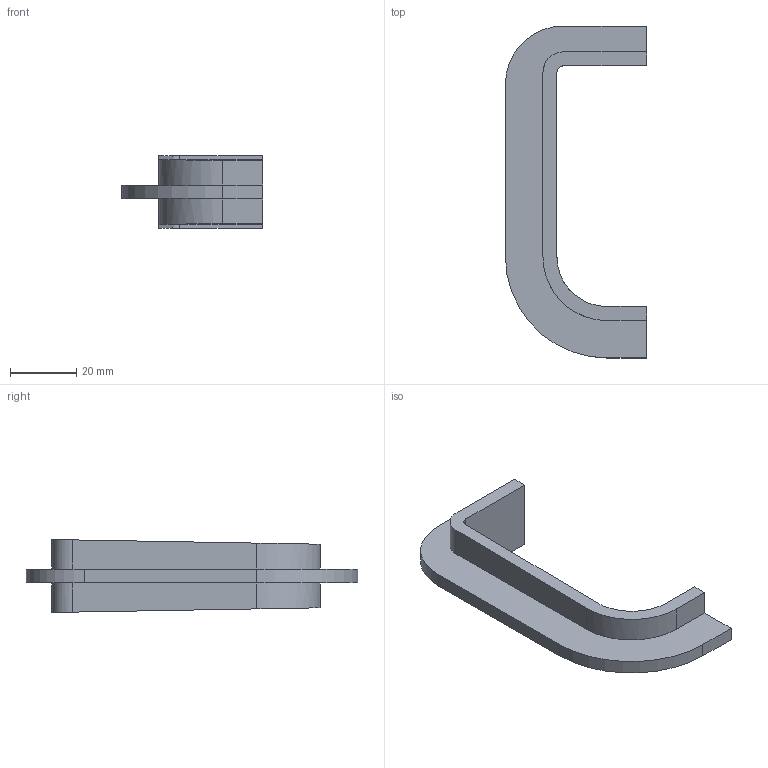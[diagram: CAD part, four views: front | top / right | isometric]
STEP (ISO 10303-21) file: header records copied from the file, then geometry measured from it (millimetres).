
FILE_DESCRIPTION(/* description */ (''),/* implementation_level */ '2;1');
FILE_NAME(/* name */ 'D:\5-Olympiades\47e\Sujet Régional\Etau\Etau à rotule\13-Support_EBAUCHE.stp',/* time_stamp */ '2022-03-24T11:27:21+01:00',/* author */ ('philippe.jeannerod'),/* organization */ (''),/* preprocessor_version */ 'ST-DEVELOPER v18',/* originating_system */ 'Autodesk Inventor 2020',/* authorisation */ '');
FILE_SCHEMA (('AUTOMOTIVE_DESIGN { 1 0 10303 214 3 1 1 }'));
Length unit declared in the file: millimetre
Products named in the file (1): 13-Support_EBAUCHE
Bounding box: 42.5 x 100 x 21.98 mm (x, y, z)
Volume: 17401.9 mm3; surface area: 9730.7 mm2
Topology: 1 solids, 1 shells, 26 faces, 72 edges, 48 vertices
Faces by surface type: plane 18, cylinder 8
Entity records: 873 total; most frequent: CARTESIAN_POINT 147, ORIENTED_EDGE 144, DIRECTION 142, EDGE_CURVE 72, LINE 56, VECTOR 56, VERTEX_POINT 48, AXIS2_PLACEMENT_3D 43
